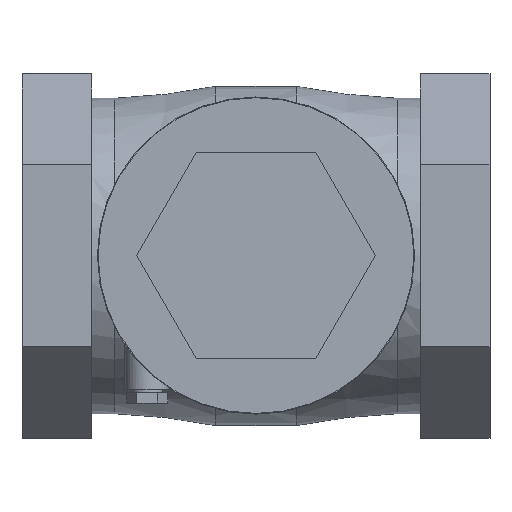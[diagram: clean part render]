
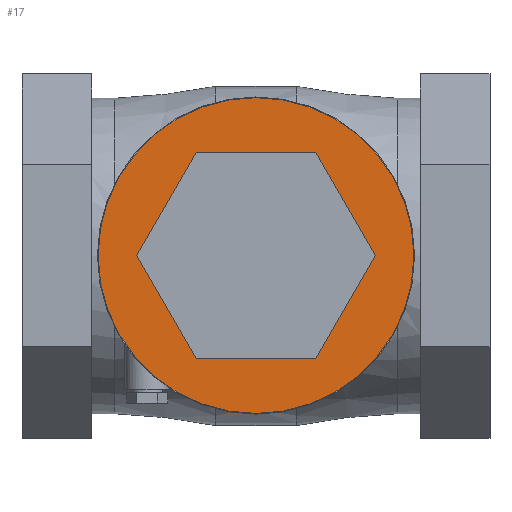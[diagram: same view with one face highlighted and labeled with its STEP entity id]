
A CAD part, top view. The second image highlights one B-rep face of the part: STEP entity #17.
In plain terms, the highlighted planar face has unit normal (0, 0, 1).
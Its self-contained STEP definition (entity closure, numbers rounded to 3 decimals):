
#17 = ADVANCED_FACE('',(#18,#58),#31,.T.);
#18 = FACE_BOUND('',#19,.T.);
#19 = EDGE_LOOP('',(#20));
#20 = ORIENTED_EDGE('',*,*,#21,.F.);
#21 = EDGE_CURVE('',#22,#22,#24,.T.);
#22 = VERTEX_POINT('',#23);
#23 = CARTESIAN_POINT('',(4.84,0.,3.295));
#24 = SURFACE_CURVE('',#25,(#30,#46),.PCURVE_S1.);
#25 = CIRCLE('',#26,1.95);
#26 = AXIS2_PLACEMENT_3D('',#27,#28,#29);
#27 = CARTESIAN_POINT('',(2.89,0.,3.295));
#28 = DIRECTION('',(0.,0.,-1.));
#29 = DIRECTION('',(1.,0.,0.));
#30 = PCURVE('',#31,#36);
#31 = PLANE('',#32);
#32 = AXIS2_PLACEMENT_3D('',#33,#34,#35);
#33 = CARTESIAN_POINT('',(2.89,0.,3.295));
#34 = DIRECTION('',(0.,0.,1.));
#35 = DIRECTION('',(1.,0.,-0.));
#36 = DEFINITIONAL_REPRESENTATION('',(#37),#45);
#37 = ( BOUNDED_CURVE() B_SPLINE_CURVE(2,(#38,#39,#40,#41,#42,#43,#44),
.UNSPECIFIED.,.T.,.F.) B_SPLINE_CURVE_WITH_KNOTS((1,2,2,2,2,1),(
    -2.094,0.,2.094,4.189,6.283,
8.378),.UNSPECIFIED.) CURVE() GEOMETRIC_REPRESENTATION_ITEM() 
RATIONAL_B_SPLINE_CURVE((1.,0.5,1.,0.5,1.,0.5,1.)) REPRESENTATION_ITEM(
  '') );
#38 = CARTESIAN_POINT('',(1.95,0.));
#39 = CARTESIAN_POINT('',(1.95,-3.377));
#40 = CARTESIAN_POINT('',(-0.975,-1.689));
#41 = CARTESIAN_POINT('',(-3.9,0.));
#42 = CARTESIAN_POINT('',(-0.975,1.689));
#43 = CARTESIAN_POINT('',(1.95,3.377));
#44 = CARTESIAN_POINT('',(1.95,0.));
#45 = ( GEOMETRIC_REPRESENTATION_CONTEXT(2) 
PARAMETRIC_REPRESENTATION_CONTEXT() REPRESENTATION_CONTEXT('2D SPACE',''
  ) );
#46 = PCURVE('',#47,#52);
#47 = CYLINDRICAL_SURFACE('',#48,1.95);
#48 = AXIS2_PLACEMENT_3D('',#49,#50,#51);
#49 = CARTESIAN_POINT('',(2.89,0.,3.13));
#50 = DIRECTION('',(0.,0.,1.));
#51 = DIRECTION('',(1.,0.,-0.));
#52 = DEFINITIONAL_REPRESENTATION('',(#53),#57);
#53 = LINE('',#54,#55);
#54 = CARTESIAN_POINT('',(6.283,0.165));
#55 = VECTOR('',#56,1.);
#56 = DIRECTION('',(-1.,0.));
#57 = ( GEOMETRIC_REPRESENTATION_CONTEXT(2) 
PARAMETRIC_REPRESENTATION_CONTEXT() REPRESENTATION_CONTEXT('2D SPACE',''
  ) );
#58 = FACE_BOUND('',#59,.T.);
#59 = EDGE_LOOP('',(#60,#90,#118,#146,#174,#202));
#60 = ORIENTED_EDGE('',*,*,#61,.F.);
#61 = EDGE_CURVE('',#62,#64,#66,.T.);
#62 = VERTEX_POINT('',#63);
#63 = CARTESIAN_POINT('',(2.153,-1.277,3.295));
#64 = VERTEX_POINT('',#65);
#65 = CARTESIAN_POINT('',(3.627,-1.277,3.295));
#66 = SURFACE_CURVE('',#67,(#71,#78),.PCURVE_S1.);
#67 = LINE('',#68,#69);
#68 = CARTESIAN_POINT('',(2.153,-1.277,3.295));
#69 = VECTOR('',#70,1.);
#70 = DIRECTION('',(1.,0.,0.));
#71 = PCURVE('',#31,#72);
#72 = DEFINITIONAL_REPRESENTATION('',(#73),#77);
#73 = LINE('',#74,#75);
#74 = CARTESIAN_POINT('',(-0.737,-1.277));
#75 = VECTOR('',#76,1.);
#76 = DIRECTION('',(1.,0.));
#77 = ( GEOMETRIC_REPRESENTATION_CONTEXT(2) 
PARAMETRIC_REPRESENTATION_CONTEXT() REPRESENTATION_CONTEXT('2D SPACE',''
  ) );
#78 = PCURVE('',#79,#84);
#79 = PLANE('',#80);
#80 = AXIS2_PLACEMENT_3D('',#81,#82,#83);
#81 = CARTESIAN_POINT('',(2.89,-1.277,3.295));
#82 = DIRECTION('',(0.,-1.,0.));
#83 = DIRECTION('',(1.,0.,0.));
#84 = DEFINITIONAL_REPRESENTATION('',(#85),#89);
#85 = LINE('',#86,#87);
#86 = CARTESIAN_POINT('',(-0.737,0.));
#87 = VECTOR('',#88,1.);
#88 = DIRECTION('',(1.,0.));
#89 = ( GEOMETRIC_REPRESENTATION_CONTEXT(2) 
PARAMETRIC_REPRESENTATION_CONTEXT() REPRESENTATION_CONTEXT('2D SPACE',''
  ) );
#90 = ORIENTED_EDGE('',*,*,#91,.F.);
#91 = EDGE_CURVE('',#92,#62,#94,.T.);
#92 = VERTEX_POINT('',#93);
#93 = CARTESIAN_POINT('',(1.415,0.,3.295));
#94 = SURFACE_CURVE('',#95,(#99,#106),.PCURVE_S1.);
#95 = LINE('',#96,#97);
#96 = CARTESIAN_POINT('',(1.415,0.,3.295));
#97 = VECTOR('',#98,1.);
#98 = DIRECTION('',(0.5,-0.866,0.));
#99 = PCURVE('',#31,#100);
#100 = DEFINITIONAL_REPRESENTATION('',(#101),#105);
#101 = LINE('',#102,#103);
#102 = CARTESIAN_POINT('',(-1.475,0.));
#103 = VECTOR('',#104,1.);
#104 = DIRECTION('',(0.5,-0.866));
#105 = ( GEOMETRIC_REPRESENTATION_CONTEXT(2) 
PARAMETRIC_REPRESENTATION_CONTEXT() REPRESENTATION_CONTEXT('2D SPACE',''
  ) );
#106 = PCURVE('',#107,#112);
#107 = PLANE('',#108);
#108 = AXIS2_PLACEMENT_3D('',#109,#110,#111);
#109 = CARTESIAN_POINT('',(1.784,-0.639,3.295));
#110 = DIRECTION('',(-0.866,-0.5,0.));
#111 = DIRECTION('',(0.5,-0.866,0.));
#112 = DEFINITIONAL_REPRESENTATION('',(#113),#117);
#113 = LINE('',#114,#115);
#114 = CARTESIAN_POINT('',(-0.737,0.));
#115 = VECTOR('',#116,1.);
#116 = DIRECTION('',(1.,0.));
#117 = ( GEOMETRIC_REPRESENTATION_CONTEXT(2) 
PARAMETRIC_REPRESENTATION_CONTEXT() REPRESENTATION_CONTEXT('2D SPACE',''
  ) );
#118 = ORIENTED_EDGE('',*,*,#119,.F.);
#119 = EDGE_CURVE('',#120,#92,#122,.T.);
#120 = VERTEX_POINT('',#121);
#121 = CARTESIAN_POINT('',(2.153,1.277,3.295));
#122 = SURFACE_CURVE('',#123,(#127,#134),.PCURVE_S1.);
#123 = LINE('',#124,#125);
#124 = CARTESIAN_POINT('',(2.153,1.277,3.295));
#125 = VECTOR('',#126,1.);
#126 = DIRECTION('',(-0.5,-0.866,0.));
#127 = PCURVE('',#31,#128);
#128 = DEFINITIONAL_REPRESENTATION('',(#129),#133);
#129 = LINE('',#130,#131);
#130 = CARTESIAN_POINT('',(-0.737,1.277));
#131 = VECTOR('',#132,1.);
#132 = DIRECTION('',(-0.5,-0.866));
#133 = ( GEOMETRIC_REPRESENTATION_CONTEXT(2) 
PARAMETRIC_REPRESENTATION_CONTEXT() REPRESENTATION_CONTEXT('2D SPACE',''
  ) );
#134 = PCURVE('',#135,#140);
#135 = PLANE('',#136);
#136 = AXIS2_PLACEMENT_3D('',#137,#138,#139);
#137 = CARTESIAN_POINT('',(1.784,0.639,3.295));
#138 = DIRECTION('',(-0.866,0.5,0.));
#139 = DIRECTION('',(-0.5,-0.866,0.));
#140 = DEFINITIONAL_REPRESENTATION('',(#141),#145);
#141 = LINE('',#142,#143);
#142 = CARTESIAN_POINT('',(-0.737,0.));
#143 = VECTOR('',#144,1.);
#144 = DIRECTION('',(1.,0.));
#145 = ( GEOMETRIC_REPRESENTATION_CONTEXT(2) 
PARAMETRIC_REPRESENTATION_CONTEXT() REPRESENTATION_CONTEXT('2D SPACE',''
  ) );
#146 = ORIENTED_EDGE('',*,*,#147,.F.);
#147 = EDGE_CURVE('',#148,#120,#150,.T.);
#148 = VERTEX_POINT('',#149);
#149 = CARTESIAN_POINT('',(3.627,1.277,3.295));
#150 = SURFACE_CURVE('',#151,(#155,#162),.PCURVE_S1.);
#151 = LINE('',#152,#153);
#152 = CARTESIAN_POINT('',(3.627,1.277,3.295));
#153 = VECTOR('',#154,1.);
#154 = DIRECTION('',(-1.,0.,0.));
#155 = PCURVE('',#31,#156);
#156 = DEFINITIONAL_REPRESENTATION('',(#157),#161);
#157 = LINE('',#158,#159);
#158 = CARTESIAN_POINT('',(0.737,1.277));
#159 = VECTOR('',#160,1.);
#160 = DIRECTION('',(-1.,0.));
#161 = ( GEOMETRIC_REPRESENTATION_CONTEXT(2) 
PARAMETRIC_REPRESENTATION_CONTEXT() REPRESENTATION_CONTEXT('2D SPACE',''
  ) );
#162 = PCURVE('',#163,#168);
#163 = PLANE('',#164);
#164 = AXIS2_PLACEMENT_3D('',#165,#166,#167);
#165 = CARTESIAN_POINT('',(2.89,1.277,3.295));
#166 = DIRECTION('',(0.,1.,0.));
#167 = DIRECTION('',(-1.,0.,0.));
#168 = DEFINITIONAL_REPRESENTATION('',(#169),#173);
#169 = LINE('',#170,#171);
#170 = CARTESIAN_POINT('',(-0.737,0.));
#171 = VECTOR('',#172,1.);
#172 = DIRECTION('',(1.,0.));
#173 = ( GEOMETRIC_REPRESENTATION_CONTEXT(2) 
PARAMETRIC_REPRESENTATION_CONTEXT() REPRESENTATION_CONTEXT('2D SPACE',''
  ) );
#174 = ORIENTED_EDGE('',*,*,#175,.F.);
#175 = EDGE_CURVE('',#176,#148,#178,.T.);
#176 = VERTEX_POINT('',#177);
#177 = CARTESIAN_POINT('',(4.365,0.,3.295));
#178 = SURFACE_CURVE('',#179,(#183,#190),.PCURVE_S1.);
#179 = LINE('',#180,#181);
#180 = CARTESIAN_POINT('',(4.365,0.,3.295));
#181 = VECTOR('',#182,1.);
#182 = DIRECTION('',(-0.5,0.866,0.));
#183 = PCURVE('',#31,#184);
#184 = DEFINITIONAL_REPRESENTATION('',(#185),#189);
#185 = LINE('',#186,#187);
#186 = CARTESIAN_POINT('',(1.475,0.));
#187 = VECTOR('',#188,1.);
#188 = DIRECTION('',(-0.5,0.866));
#189 = ( GEOMETRIC_REPRESENTATION_CONTEXT(2) 
PARAMETRIC_REPRESENTATION_CONTEXT() REPRESENTATION_CONTEXT('2D SPACE',''
  ) );
#190 = PCURVE('',#191,#196);
#191 = PLANE('',#192);
#192 = AXIS2_PLACEMENT_3D('',#193,#194,#195);
#193 = CARTESIAN_POINT('',(3.996,0.639,3.295));
#194 = DIRECTION('',(0.866,0.5,0.));
#195 = DIRECTION('',(-0.5,0.866,0.));
#196 = DEFINITIONAL_REPRESENTATION('',(#197),#201);
#197 = LINE('',#198,#199);
#198 = CARTESIAN_POINT('',(-0.737,0.));
#199 = VECTOR('',#200,1.);
#200 = DIRECTION('',(1.,0.));
#201 = ( GEOMETRIC_REPRESENTATION_CONTEXT(2) 
PARAMETRIC_REPRESENTATION_CONTEXT() REPRESENTATION_CONTEXT('2D SPACE',''
  ) );
#202 = ORIENTED_EDGE('',*,*,#203,.F.);
#203 = EDGE_CURVE('',#64,#176,#204,.T.);
#204 = SURFACE_CURVE('',#205,(#209,#216),.PCURVE_S1.);
#205 = LINE('',#206,#207);
#206 = CARTESIAN_POINT('',(3.627,-1.277,3.295));
#207 = VECTOR('',#208,1.);
#208 = DIRECTION('',(0.5,0.866,0.));
#209 = PCURVE('',#31,#210);
#210 = DEFINITIONAL_REPRESENTATION('',(#211),#215);
#211 = LINE('',#212,#213);
#212 = CARTESIAN_POINT('',(0.737,-1.277));
#213 = VECTOR('',#214,1.);
#214 = DIRECTION('',(0.5,0.866));
#215 = ( GEOMETRIC_REPRESENTATION_CONTEXT(2) 
PARAMETRIC_REPRESENTATION_CONTEXT() REPRESENTATION_CONTEXT('2D SPACE',''
  ) );
#216 = PCURVE('',#217,#222);
#217 = PLANE('',#218);
#218 = AXIS2_PLACEMENT_3D('',#219,#220,#221);
#219 = CARTESIAN_POINT('',(3.996,-0.639,3.295));
#220 = DIRECTION('',(0.866,-0.5,0.));
#221 = DIRECTION('',(0.5,0.866,0.));
#222 = DEFINITIONAL_REPRESENTATION('',(#223),#227);
#223 = LINE('',#224,#225);
#224 = CARTESIAN_POINT('',(-0.737,0.));
#225 = VECTOR('',#226,1.);
#226 = DIRECTION('',(1.,0.));
#227 = ( GEOMETRIC_REPRESENTATION_CONTEXT(2) 
PARAMETRIC_REPRESENTATION_CONTEXT() REPRESENTATION_CONTEXT('2D SPACE',''
  ) );
